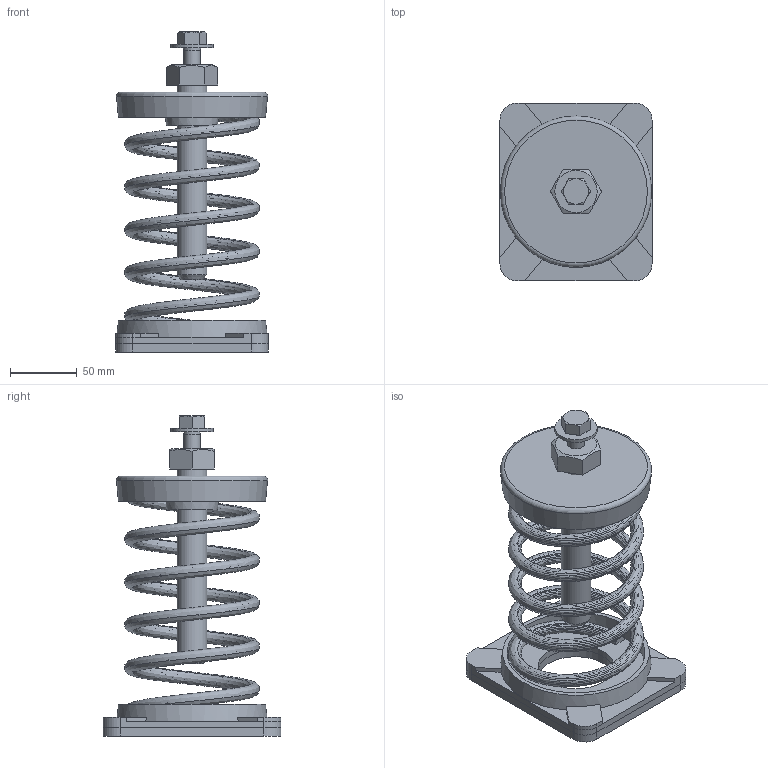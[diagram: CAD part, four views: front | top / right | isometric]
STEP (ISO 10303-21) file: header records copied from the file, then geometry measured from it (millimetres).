
FILE_DESCRIPTION(/* description */ (''),/* implementation_level */ '2;1');
FILE_NAME(/* name */ 'C:\001_Work\Designs\SLF ASSEMBLIES\SLF-129.stp',/* time_stamp */ '2016-01-10T15:17:22-05:00',/* author */ ('rramoutar'),/* organization */ ('Mason Industries Inc.'),/* preprocessor_version */ 'ST-DEVELOPER v15.6',/* originating_system */ 'Autodesk Inventor 2015',/* authorisation */ '');
FILE_SCHEMA (('CONFIG_CONTROL_DESIGN'));
Length unit declared in the file: inch
Products named in the file (1): SLF-129
Bounding box: 114.3 x 133.35 x 240.39 mm (x, y, z)
Volume: 371917 mm3; surface area: 205537.1 mm2
Topology: 7 solids, 7 shells, 138 faces, 321 edges, 206 vertices
Faces by surface type: plane 73, cylinder 27, bspline 22, cone 14, torus 2
Full cylindrical faces by diameter (mm): 9.525 x4, 12.7 x2, 13.487 x1, 19.05 x1, 19.447 x1, 22.225 x1, 31.75 x1, 57.15 x2, 103.981 x2
Entity records: 12462 total; most frequent: CARTESIAN_POINT 9407, ORIENTED_EDGE 580, DIRECTION 534, EDGE_CURVE 290, AXIS2_PLACEMENT_3D 201, VERTEX_POINT 200, EDGE_LOOP 182, STYLED_ITEM 145
